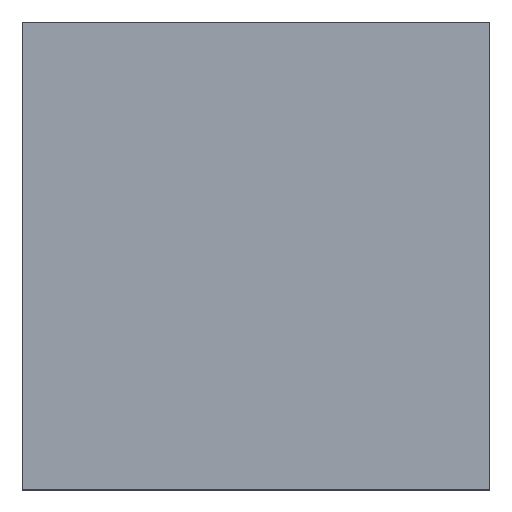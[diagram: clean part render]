
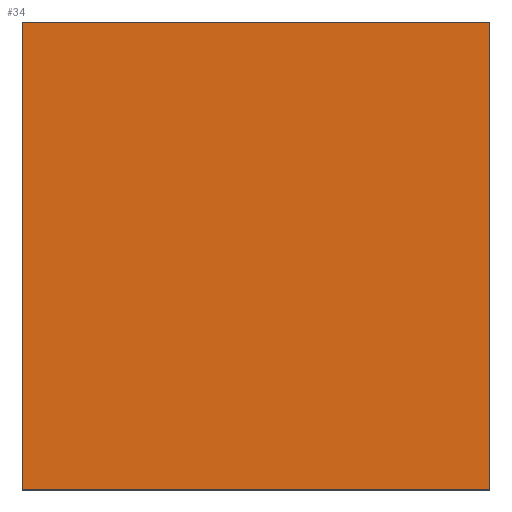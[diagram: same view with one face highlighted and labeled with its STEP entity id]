
A CAD part, left-side view. The second image highlights one B-rep face of the part: STEP entity #34.
In plain terms, the highlighted planar face has unit normal (-1, 0, 0).
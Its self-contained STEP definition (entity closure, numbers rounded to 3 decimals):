
#34 = ADVANCED_FACE ( 'NONE', ( #104 ), #406, .F. ) ;
#40 = DIRECTION ( 'NONE',  ( 0., -1., 0. ) ) ;
#53 = VECTOR ( 'NONE', #78, 1000. ) ;
#72 = ORIENTED_EDGE ( 'NONE', *, *, #154, .F. ) ;
#73 = CARTESIAN_POINT ( 'NONE',  ( -0.5, 0.25, -0.25 ) ) ;
#78 = DIRECTION ( 'NONE',  ( 0., -1., 0. ) ) ;
#104 = FACE_OUTER_BOUND ( 'NONE', #290, .T. ) ;
#114 = VECTOR ( 'NONE', #40, 1000. ) ;
#131 = DIRECTION ( 'NONE',  ( 0., 0., 1. ) ) ;
#154 = EDGE_CURVE ( 'NONE', #389, #455, #349, .T. ) ;
#164 = LINE ( 'NONE', #362, #381 ) ;
#165 = VERTEX_POINT ( 'NONE', #315 ) ;
#166 = DIRECTION ( 'NONE',  ( 0., 0., 1. ) ) ;
#183 = CARTESIAN_POINT ( 'NONE',  ( -0.5, 0.25, 0.25 ) ) ;
#195 = AXIS2_PLACEMENT_3D ( 'NONE', #73, #251, #212 ) ;
#212 = DIRECTION ( 'NONE',  ( 0., 0., -1. ) ) ;
#234 = EDGE_CURVE ( 'NONE', #258, #165, #164, .T. ) ;
#240 = ORIENTED_EDGE ( 'NONE', *, *, #234, .T. ) ;
#251 = DIRECTION ( 'NONE',  ( 1., 0., 0. ) ) ;
#258 = VERTEX_POINT ( 'NONE', #317 ) ;
#268 = CARTESIAN_POINT ( 'NONE',  ( -0.5, 0.25, 0.25 ) ) ;
#271 = CARTESIAN_POINT ( 'NONE',  ( -0.5, 0.25, -0.25 ) ) ;
#281 = VECTOR ( 'NONE', #131, 1000. ) ;
#290 = EDGE_LOOP ( 'NONE', ( #240, #396, #72, #469 ) ) ;
#315 = CARTESIAN_POINT ( 'NONE',  ( -0.5, -0.25, 0.25 ) ) ;
#317 = CARTESIAN_POINT ( 'NONE',  ( -0.5, -0.25, -0.25 ) ) ;
#348 = CARTESIAN_POINT ( 'NONE',  ( -0.5, 0.25, -0.25 ) ) ;
#349 = LINE ( 'NONE', #271, #281 ) ;
#362 = CARTESIAN_POINT ( 'NONE',  ( -0.5, -0.25, -0.25 ) ) ;
#380 = EDGE_CURVE ( 'NONE', #389, #258, #382, .T. ) ;
#381 = VECTOR ( 'NONE', #166, 1000. ) ;
#382 = LINE ( 'NONE', #348, #114 ) ;
#389 = VERTEX_POINT ( 'NONE', #486 ) ;
#396 = ORIENTED_EDGE ( 'NONE', *, *, #412, .F. ) ;
#406 = PLANE ( 'NONE',  #195 ) ;
#412 = EDGE_CURVE ( 'NONE', #455, #165, #445, .T. ) ;
#445 = LINE ( 'NONE', #183, #53 ) ;
#455 = VERTEX_POINT ( 'NONE', #268 ) ;
#469 = ORIENTED_EDGE ( 'NONE', *, *, #380, .T. ) ;
#486 = CARTESIAN_POINT ( 'NONE',  ( -0.5, 0.25, -0.25 ) ) ;
